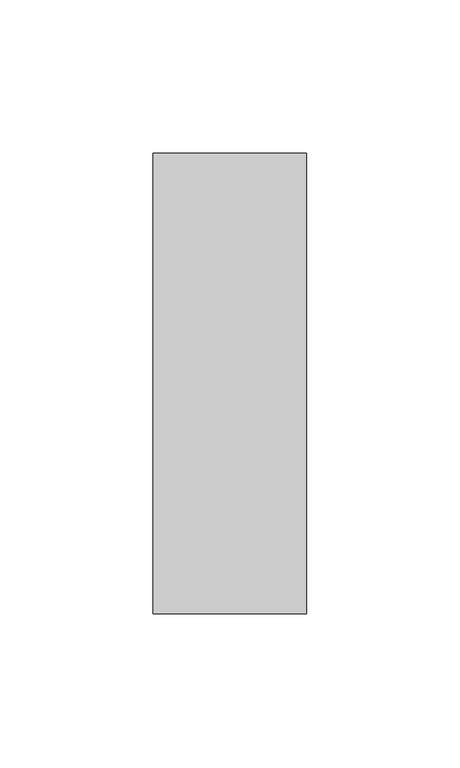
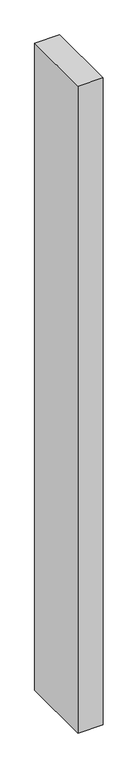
"""IFC4 building model written with IfcOpenShell, lengths in millimetres: member geometry, Прямоугольный импост : 50 x 150 мм."""

from ifc_helpers import new_model, si_unit, frame, origin, place, context, project, spatial, polyline, outline, extrude, source, transform, mapped, element, save


def member_79e3338c(model_context):
    return source(origin(), model_context, "Body", "SweptSolid", [
        extrude(outline(polyline([(25.0, 75.0), (25.0, -75.0), (-25.0, -75.0), (-25.0, 75.0), (25.0, 75.0)])), frame((0.0, 0.0, -1366.6812912), z_axis=(0.0, 0.0, 1.0), x_axis=(1.0, 0.0, 0.0)), (0.0, 0.0, 1.0), 1366.6812912),
    ])


if __name__ == "__main__":
    model = new_model("IFC4")
    model_context = context("Model", 3, world=origin())
    ifc_project = project(units=[si_unit("LENGTHUNIT", "METRE", prefix="MILLI")], contexts=[model_context])
    site = spatial("IfcSite", under=ifc_project)
    building = spatial("IfcBuilding", under=site)
    placement = place(None, origin())
    member_shape = member_79e3338c(model_context)
    element("IfcMember", 1, ObjectType="Прямоугольный импост : 50 x 150 мм", at=placement, inside=building, context=model_context, shape_type="MappedRepresentation", body=[
        mapped(member_shape, transform((0.0, 0.0, 0.0), x_axis=(1.0, 0.0, 0.0), y_axis=(0.0, 1.0, 0.0), z_axis=(0.0, 0.0, 1.0))),
    ])
    save(model, "model.ifc")
